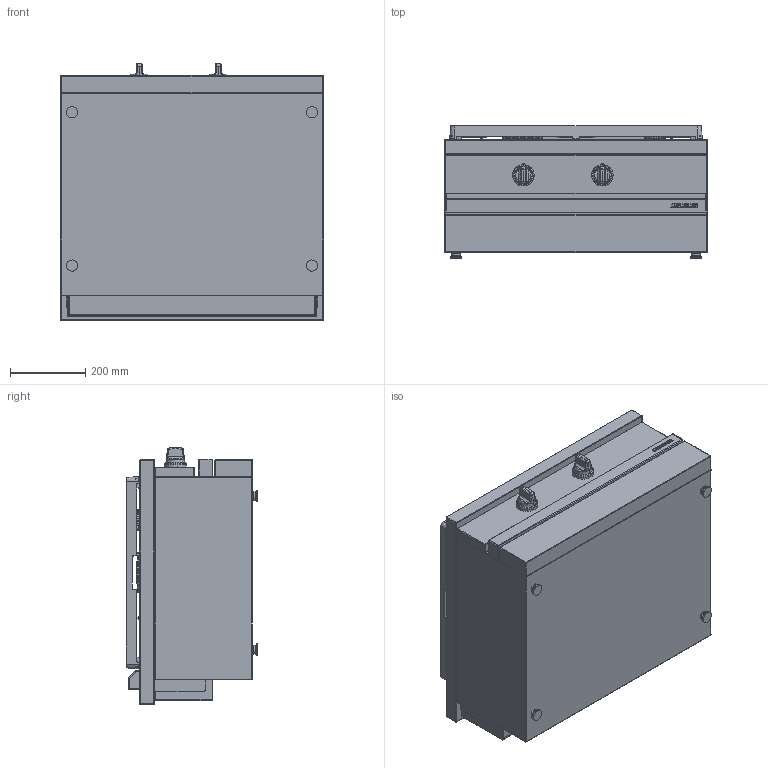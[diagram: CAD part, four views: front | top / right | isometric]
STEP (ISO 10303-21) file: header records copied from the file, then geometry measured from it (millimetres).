
FILE_DESCRIPTION((''),'2;1');
FILE_NAME('CSG720GCF_EXPORT_STEP_ASM','2017-11-22T',('r.avril'),(''),'PRO/ENGINEER BY PARAMETRIC TECHNOLOGY CORPORATION, 2014200','PRO/ENGINEER BY PARAMETRIC TECHNOLOGY CORPORATION, 2014200','');
FILE_SCHEMA(('AP203_CONFIGURATION_CONTROLLED_3D_DESIGN_OF_MECHANICAL_PARTS_AND_ASSEMBLIES_MIM_LF { 1 0 10303 403 2 1 2 }'));
Products named in the file (11): SNACKS_AMB_700_EXPORT_STEP; TABLE_700_CLASSIQUE_4F; 5KW; 1_5KW; 65062009; 65149005; 65062012; 90000894_ASM; TABLE_700_GCF_ASM; MANETTE_AMB_EXPORT_STEP; CSG720GCF_EXPORT_STEP_ASM
Assembly tree (16 placements, depth 4):
  CSG720GCF_EXPORT_STEP_ASM
    SNACKS_AMB_700_EXPORT_STEP
    TABLE_700_GCF_ASM
      TABLE_700_CLASSIQUE_4F
      5KW
      1_5KW
      90000894_ASM
        65062009
        65149005  x6
        65062012
    MANETTE_AMB_EXPORT_STEP  x2
Bounding box: 700 x 351 x 682.5 mm (x, y, z)
Volume: 53274475.9 mm3; surface area: 4461288.6 mm2
Topology: 19 solids, 37 shells, 1983 faces, 5573 edges, 3950 vertices
Faces by surface type: plane 975, cylinder 545, bspline 190, sphere 122, torus 90, cone 61
Entity records: 88210 total; most frequent: CARTESIAN_POINT 22127, ORIENTED_EDGE 9461, DIRECTION 9090, EDGE_CURVE 4955, PRESENTATION_STYLE_ASSIGNMENT 4729, STYLED_ITEM 4729, CURVE_STYLE 3978, VECTOR 3271
